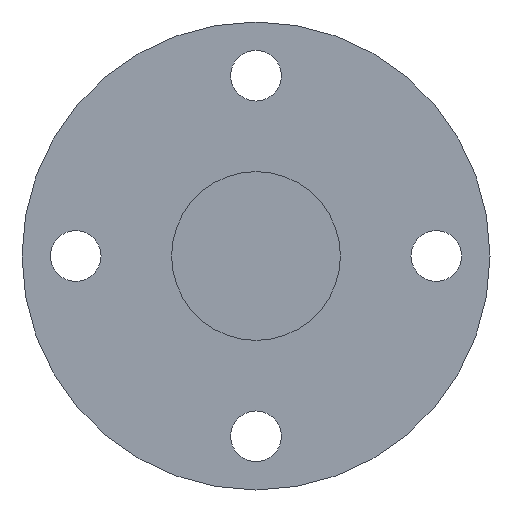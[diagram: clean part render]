
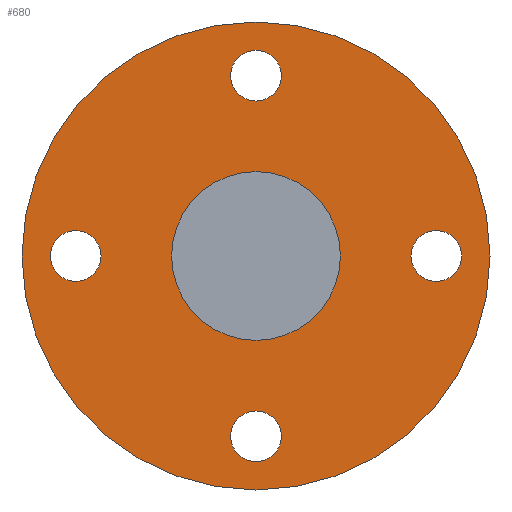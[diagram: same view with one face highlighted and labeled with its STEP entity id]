
A CAD part, left-side view. The second image highlights one B-rep face of the part: STEP entity #680.
In plain terms, the highlighted planar face has unit normal (-1, 0, 0).
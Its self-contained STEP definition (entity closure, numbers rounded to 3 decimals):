
#569=CARTESIAN_POINT('',(125.0,23.5,-3.3));
#570=VERTEX_POINT('',#569);
#571=CARTESIAN_POINT('',(125.0,23.5,0.));
#572=DIRECTION('',(1.0,0.0,0.0));
#573=DIRECTION('',(0.0,0.0,-1.0));
#574=AXIS2_PLACEMENT_3D('',#571,#572,#573);
#575=CIRCLE('',#574,3.3);
#576=EDGE_CURVE('',#570,#570,#575,.T.);
#589=CARTESIAN_POINT('',(125.0,-3.3,-23.5));
#590=VERTEX_POINT('',#589);
#591=CARTESIAN_POINT('',(125.0,0.,-23.5));
#592=DIRECTION('',(1.0,0.0,0.0));
#593=DIRECTION('',(0.0,-1.0,0.0));
#594=AXIS2_PLACEMENT_3D('',#591,#592,#593);
#595=CIRCLE('',#594,3.3);
#596=EDGE_CURVE('',#590,#590,#595,.T.);
#609=CARTESIAN_POINT('',(125.0,-23.5,3.3));
#610=VERTEX_POINT('',#609);
#611=CARTESIAN_POINT('',(125.0,-23.5,0.));
#612=DIRECTION('',(1.0,0.0,0.0));
#613=DIRECTION('',(0.0,0.0,1.0));
#614=AXIS2_PLACEMENT_3D('',#611,#612,#613);
#615=CIRCLE('',#614,3.3);
#616=EDGE_CURVE('',#610,#610,#615,.T.);
#629=CARTESIAN_POINT('',(125.0,3.3,23.5));
#630=VERTEX_POINT('',#629);
#631=CARTESIAN_POINT('',(125.0,0.0,23.5));
#632=DIRECTION('',(1.0,0.0,0.0));
#633=DIRECTION('',(0.0,1.0,0.0));
#634=AXIS2_PLACEMENT_3D('',#631,#632,#633);
#635=CIRCLE('',#634,3.3);
#636=EDGE_CURVE('',#630,#630,#635,.T.);
#641=CARTESIAN_POINT('',(125.0,0.0,20.75));
#642=DIRECTION('',(-1.0,0.0,0.0));
#643=DIRECTION('',(0.0,0.0,1.0));
#644=AXIS2_PLACEMENT_3D('',#641,#642,#643);
#645=PLANE('',#644);
#646=CARTESIAN_POINT('',(125.0,0.0,30.5));
#647=VERTEX_POINT('',#646);
#648=CARTESIAN_POINT('',(125.0,0.0,0.0));
#649=DIRECTION('',(-1.0,0.0,0.0));
#650=DIRECTION('',(0.0,0.0,1.0));
#651=AXIS2_PLACEMENT_3D('',#648,#649,#650);
#652=CIRCLE('',#651,30.5);
#653=EDGE_CURVE('',#647,#647,#652,.T.);
#654=ORIENTED_EDGE('',*,*,#653,.T.);
#655=EDGE_LOOP('',(#654));
#656=FACE_OUTER_BOUND('',#655,.T.);
#657=ORIENTED_EDGE('',*,*,#576,.T.);
#658=EDGE_LOOP('',(#657));
#659=FACE_BOUND('',#658,.T.);
#660=ORIENTED_EDGE('',*,*,#596,.T.);
#661=EDGE_LOOP('',(#660));
#662=FACE_BOUND('',#661,.T.);
#663=ORIENTED_EDGE('',*,*,#616,.T.);
#664=EDGE_LOOP('',(#663));
#665=FACE_BOUND('',#664,.T.);
#666=ORIENTED_EDGE('',*,*,#636,.T.);
#667=EDGE_LOOP('',(#666));
#668=FACE_BOUND('',#667,.T.);
#669=CARTESIAN_POINT('',(125.0,0.0,11.));
#670=VERTEX_POINT('',#669);
#671=CARTESIAN_POINT('',(125.0,0.0,0.0));
#672=DIRECTION('',(-1.0,0.0,0.0));
#673=DIRECTION('',(0.0,0.0,1.0));
#674=AXIS2_PLACEMENT_3D('',#671,#672,#673);
#675=CIRCLE('',#674,11.);
#676=EDGE_CURVE('',#670,#670,#675,.T.);
#677=ORIENTED_EDGE('',*,*,#676,.F.);
#678=EDGE_LOOP('',(#677));
#679=FACE_BOUND('',#678,.T.);
#680=ADVANCED_FACE('',(#656,#659,#662,#665,#668,#679),#645,.T.);
